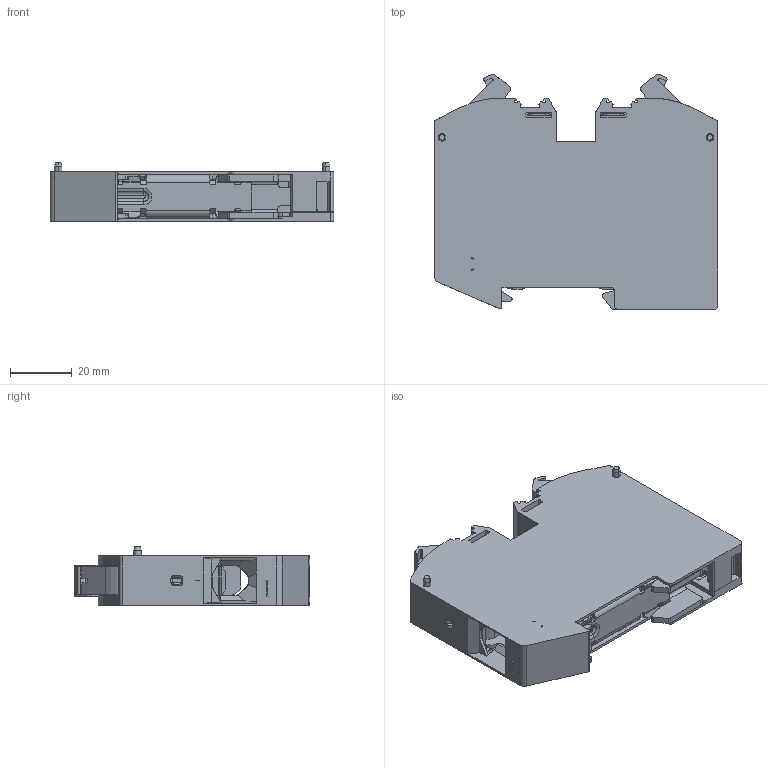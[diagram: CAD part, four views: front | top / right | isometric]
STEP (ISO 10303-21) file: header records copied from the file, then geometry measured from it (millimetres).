
FILE_DESCRIPTION(/* description */ (''),/* implementation_level */ '2;1');
FILE_NAME(/* name */ 'UPT-35PE ASSY.stp',/* time_stamp */ '2024-04-26T16:35:43+08:00',/* author */ (''),/* organization */ (''),/* preprocessor_version */ 'ST-DEVELOPER v16.7',/* originating_system */ 'SIEMENS PLM Software NX 12.0',/* authorisation */ '');
FILE_SCHEMA (('AUTOMOTIVE_DESIGN { 1 0 10303 214 3 1 1 1 }'));
Products named in the file (1): Admi0EB4BAB8iyfn
Bounding box: 91.6 x 76.21 x 19 mm (x, y, z)
Volume: 44330.6 mm3; surface area: 57548.8 mm2
Topology: 1 solids, 19 shells, 3439 faces, 9961 edges, 6583 vertices
Faces by surface type: plane 1700, cylinder 1445, extrusion 88, cone 80, torus 68, bspline 58
Entity records: 133499 total; most frequent: CARTESIAN_POINT 40327, ORIENTED_EDGE 19918, DIRECTION 19584, EDGE_CURVE 9959, AXIS2_PLACEMENT_3D 6712, VERTEX_POINT 6582, VECTOR 6160, LINE 6072
